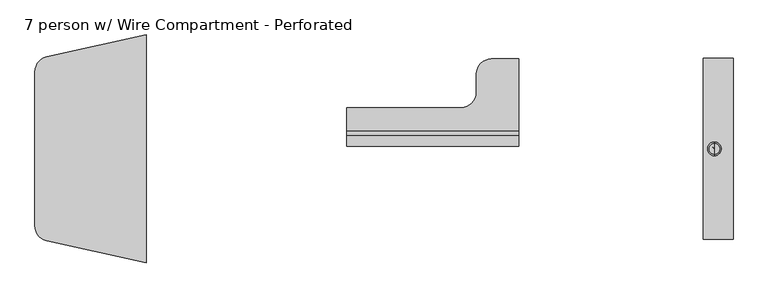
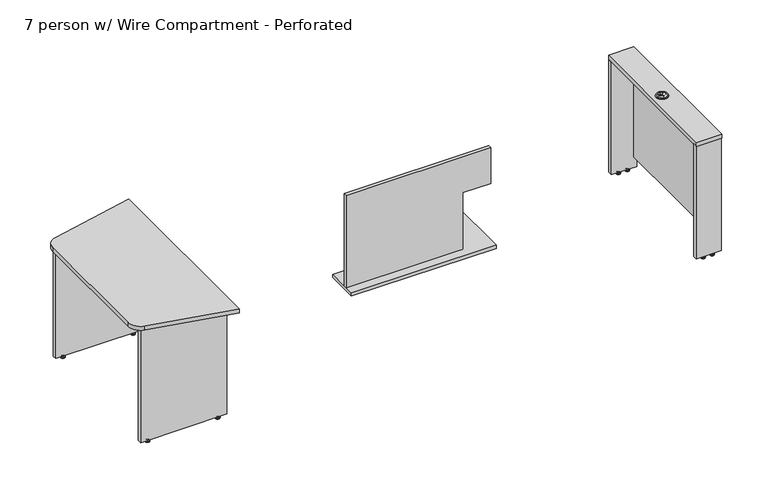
"""IFC4 building model written with IfcOpenShell, lengths in millimetres: furniture geometry, Nova Solutions - Collaboration Table - Boat_6-8 person : 7 person w/ Wire Compartment - Perforated."""

from ifc_helpers import new_model, si_unit, point, frame, frame_2d, origin, place, context, project, spatial, polyline, circle_curve, ellipse_curve, trimmed, segment, composite_curve, outline, extrude, source, transform, mapped, element, save
from ifc_brep_helpers import plane_surface, cylinder_surface, revolved_surface, advanced_brep


def furniture_7_person_w_wire_compartment_perforated_f4f33cce(model_context):
    return source(origin(), model_context, "Body", "SolidModel", [
        advanced_brep(
        [(-2383.9628323, 449.6276506, 11.1125), (-2383.9628323, 442.95, 11.1125), (-2383.9628323, 436.2723494, 11.1125), (-2383.9628323, 449.6276506, 9.525), (-2383.9628323, 436.2723494, 9.525), (-2383.9628323, 454.8355135, 4.7748687), (-2383.9628323, 431.0644865, 4.7748687), (-2383.9628323, 455.6966506, 3.989419), (-2383.9628323, 430.2033494, 3.989419), (-2383.9628323, 455.6966506, 3.175), (-2383.9628323, 430.2033494, 3.175), (-2383.9628323, 454.8459119, 0.0), (-2383.9628323, 431.0540881, 0.0), (-2383.9628323, 442.95, 0.0)],
        [
            (0, 1),
            (1, 2),
            (2, 0, circle_curve(frame((-2383.9628323, 442.95, 11.1125), z_axis=(0.0, 0.0, 1.0), x_axis=(0.0, -1.0, 0.0)), 6.6776506)),
            (0, 2, circle_curve(frame((-2383.9628323, 442.95, 11.1125), z_axis=(0.0, 0.0, 1.0), x_axis=(0.0, -1.0, 0.0)), 6.6776506)),
            (3, 0),
            (2, 4),
            (4, 3, circle_curve(frame((-2383.9628323, 442.95, 9.525), z_axis=(0.0, 0.0, 1.0), x_axis=(0.0, -1.0, 0.0)), 6.6776506)),
            (3, 4, circle_curve(frame((-2383.9628323, 442.95, 9.525), z_axis=(0.0, 0.0, 1.0), x_axis=(0.0, -1.0, 0.0)), 6.6776506)),
            (5, 3, circle_curve(frame((-2383.9628323, 455.8820627, 11.1521822), z_axis=(-1.0, 0.0, 0.0), x_axis=(0.0, -1.0, 0.0)), 6.462615)),
            (4, 6, circle_curve(frame((-2383.9628323, 430.0179373, 11.1521822), z_axis=(-1.0, 0.0, 0.0), x_axis=(0.0, 1.0, 0.0)), 6.462615)),
            (6, 5, circle_curve(frame((-2383.9628323, 442.95, 4.7748687), z_axis=(0.0, 0.0, 1.0), x_axis=(0.0, -1.0, 0.0)), 11.8855135)),
            (5, 6, circle_curve(frame((-2383.9628323, 442.95, 4.7748687), z_axis=(0.0, 0.0, 1.0), x_axis=(0.0, -1.0, 0.0)), 11.8855135)),
            (7, 5, circle_curve(frame((-2383.9628323, 454.6624632, 3.7203591), z_axis=(1.0, 0.0, 0.0), x_axis=(0.0, -1.0, 0.0)), 1.0686145)),
            (6, 8, circle_curve(frame((-2383.9628323, 431.2375368, 3.7203591), z_axis=(1.0, 0.0, 0.0), x_axis=(0.0, 1.0, 0.0)), 1.0686145)),
            (8, 7, circle_curve(frame((-2383.9628323, 442.95, 3.989419), z_axis=(0.0, 0.0, 1.0), x_axis=(0.0, -1.0, 0.0)), 12.7466506)),
            (7, 8, circle_curve(frame((-2383.9628323, 442.95, 3.989419), z_axis=(0.0, 0.0, 1.0), x_axis=(0.0, -1.0, 0.0)), 12.7466506)),
            (9, 7),
            (8, 10),
            (10, 9, circle_curve(frame((-2383.9628323, 442.95, 3.175), z_axis=(0.0, 0.0, 1.0), x_axis=(0.0, -1.0, 0.0)), 12.7466506)),
            (9, 10, circle_curve(frame((-2383.9628323, 442.95, 3.175), z_axis=(0.0, 0.0, 1.0), x_axis=(0.0, -1.0, 0.0)), 12.7466506)),
            (11, 9),
            (10, 12),
            (12, 11, circle_curve(frame((-2383.9628323, 442.95, 0.0), z_axis=(0.0, 0.0, 1.0), x_axis=(0.0, -1.0, 0.0)), 11.8959119)),
            (11, 12, circle_curve(frame((-2383.9628323, 442.95, 0.0), z_axis=(0.0, 0.0, 1.0), x_axis=(0.0, -1.0, 0.0)), 11.8959119)),
            (13, 11),
            (12, 13),
        ],
        [
            plane_surface(frame((-2383.9628323, 442.95, 11.1125), z_axis=(0.0, 0.0, 1.0), x_axis=(0.0, -1.0, 0.0))),
            cylinder_surface(frame((-2383.9628323, 442.95, 43.2095994), z_axis=(0.0, 0.0, -1.0), x_axis=(0.0, -1.0, 0.0)), 6.6776506),
            revolved_surface(trimmed(ellipse_curve(frame((-2383.9628323, 430.0179373, 11.1521822), z_axis=(-1.0, 0.0, 0.0), x_axis=(0.0, 1.0, 0.0)), 6.462615, 6.462615), [point((-2383.9628323, 436.2723494, 9.525))], [point((-2383.9628323, 431.0644865, 4.7748687))], True, "CARTESIAN"), (-2383.9628323, 442.95, 43.2095994), (0.0, 0.0, -1.0)),
            revolved_surface(trimmed(ellipse_curve(frame((-2383.9628323, 431.2375368, 3.7203591), z_axis=(1.0, 0.0, 0.0), x_axis=(0.0, 1.0, 0.0)), 1.0686145, 1.0686145), [point((-2383.9628323, 431.0644865, 4.7748687))], [point((-2383.9628323, 430.2033494, 3.989419))], True, "CARTESIAN"), (-2383.9628323, 442.95, 43.2095994), (0.0, 0.0, -1.0)),
            cylinder_surface(frame((-2383.9628323, 442.95, 43.2095994), z_axis=(0.0, 0.0, -1.0), x_axis=(0.0, -1.0, 0.0)), 12.7466506),
            revolved_surface(polyline([(-2383.9628323, 430.2033494, 3.175), (-2383.9628323, 431.0540881, 0.0)]), (-2383.9628323, 442.95, 43.2095994), (0.0, 0.0, -1.0)),
            plane_surface(frame((-2383.9628323, 442.95, 0.0), z_axis=(0.0, 0.0, -1.0), x_axis=(0.0, -1.0, 0.0))),
        ],
        [
            (0, [[1, 2, 3]]),
            (0, [[-2, -1, 4]]),
            (1, [[5, -3, 6, 7]]),
            (1, [[-6, -4, -5, 8]]),
            (2, [[9, -7, 10, 11]]),
            (2, [[-10, -8, -9, 12]]),
            (3, [[13, -11, 14, 15]]),
            (3, [[-14, -12, -13, 16]]),
            (4, [[17, -15, 18, 19]]),
            (4, [[-18, -16, -17, 20]]),
            (5, [[21, -19, 22, 23]]),
            (5, [[-22, -20, -21, 24]]),
            (6, [[25, -23, 26]]),
            (6, [[-26, -24, -25]]),
        ],
    ),
        advanced_brep(
        [(-1959.6909573, 449.6276506, 11.1125), (-1959.6909573, 442.95, 11.1125), (-1959.6909573, 436.2723494, 11.1125), (-1959.6909573, 449.6276506, 9.525), (-1959.6909573, 436.2723494, 9.525), (-1959.6909573, 454.8355135, 4.7748687), (-1959.6909573, 431.0644865, 4.7748687), (-1959.6909573, 455.6966506, 3.989419), (-1959.6909573, 430.2033494, 3.989419), (-1959.6909573, 455.6966506, 3.175), (-1959.6909573, 430.2033494, 3.175), (-1959.6909573, 454.8459119, 0.0), (-1959.6909573, 431.0540881, 0.0), (-1959.6909573, 442.95, 0.0)],
        [
            (0, 1),
            (1, 2),
            (2, 0, circle_curve(frame((-1959.6909573, 442.95, 11.1125), z_axis=(0.0, 0.0, 1.0), x_axis=(0.0, -1.0, 0.0)), 6.6776506)),
            (0, 2, circle_curve(frame((-1959.6909573, 442.95, 11.1125), z_axis=(0.0, 0.0, 1.0), x_axis=(0.0, -1.0, 0.0)), 6.6776506)),
            (3, 0),
            (2, 4),
            (4, 3, circle_curve(frame((-1959.6909573, 442.95, 9.525), z_axis=(0.0, 0.0, 1.0), x_axis=(0.0, -1.0, 0.0)), 6.6776506)),
            (3, 4, circle_curve(frame((-1959.6909573, 442.95, 9.525), z_axis=(0.0, 0.0, 1.0), x_axis=(0.0, -1.0, 0.0)), 6.6776506)),
            (5, 3, circle_curve(frame((-1959.6909573, 455.8820627, 11.1521822), z_axis=(-1.0, 0.0, 0.0), x_axis=(0.0, -1.0, 0.0)), 6.462615)),
            (4, 6, circle_curve(frame((-1959.6909573, 430.0179373, 11.1521822), z_axis=(-1.0, 0.0, 0.0), x_axis=(0.0, 1.0, 0.0)), 6.462615)),
            (6, 5, circle_curve(frame((-1959.6909573, 442.95, 4.7748687), z_axis=(0.0, 0.0, 1.0), x_axis=(0.0, -1.0, 0.0)), 11.8855135)),
            (5, 6, circle_curve(frame((-1959.6909573, 442.95, 4.7748687), z_axis=(0.0, 0.0, 1.0), x_axis=(0.0, -1.0, 0.0)), 11.8855135)),
            (7, 5, circle_curve(frame((-1959.6909573, 454.6624632, 3.7203591), z_axis=(1.0, 0.0, 0.0), x_axis=(0.0, -1.0, 0.0)), 1.0686145)),
            (6, 8, circle_curve(frame((-1959.6909573, 431.2375368, 3.7203591), z_axis=(1.0, 0.0, 0.0), x_axis=(0.0, 1.0, 0.0)), 1.0686145)),
            (8, 7, circle_curve(frame((-1959.6909573, 442.95, 3.989419), z_axis=(0.0, 0.0, 1.0), x_axis=(0.0, -1.0, 0.0)), 12.7466506)),
            (7, 8, circle_curve(frame((-1959.6909573, 442.95, 3.989419), z_axis=(0.0, 0.0, 1.0), x_axis=(0.0, -1.0, 0.0)), 12.7466506)),
            (9, 7),
            (8, 10),
            (10, 9, circle_curve(frame((-1959.6909573, 442.95, 3.175), z_axis=(0.0, 0.0, 1.0), x_axis=(0.0, -1.0, 0.0)), 12.7466506)),
            (9, 10, circle_curve(frame((-1959.6909573, 442.95, 3.175), z_axis=(0.0, 0.0, 1.0), x_axis=(0.0, -1.0, 0.0)), 12.7466506)),
            (11, 9),
            (10, 12),
            (12, 11, circle_curve(frame((-1959.6909573, 442.95, 0.0), z_axis=(0.0, 0.0, 1.0), x_axis=(0.0, -1.0, 0.0)), 11.8959119)),
            (11, 12, circle_curve(frame((-1959.6909573, 442.95, 0.0), z_axis=(0.0, 0.0, 1.0), x_axis=(0.0, -1.0, 0.0)), 11.8959119)),
            (13, 11),
            (12, 13),
        ],
        [
            plane_surface(frame((-1959.6909573, 442.95, 11.1125), z_axis=(0.0, 0.0, 1.0), x_axis=(0.0, -1.0, 0.0))),
            cylinder_surface(frame((-1959.6909573, 442.95, 43.2095994), z_axis=(0.0, 0.0, -1.0), x_axis=(0.0, -1.0, 0.0)), 6.6776506),
            revolved_surface(trimmed(ellipse_curve(frame((-1959.6909573, 430.0179373, 11.1521822), z_axis=(-1.0, 0.0, 0.0), x_axis=(0.0, 1.0, 0.0)), 6.462615, 6.462615), [point((-1959.6909573, 436.2723494, 9.525))], [point((-1959.6909573, 431.0644865, 4.7748687))], True, "CARTESIAN"), (-1959.6909573, 442.95, 43.2095994), (0.0, 0.0, -1.0)),
            revolved_surface(trimmed(ellipse_curve(frame((-1959.6909573, 431.2375368, 3.7203591), z_axis=(1.0, 0.0, 0.0), x_axis=(0.0, 1.0, 0.0)), 1.0686145, 1.0686145), [point((-1959.6909573, 431.0644865, 4.7748687))], [point((-1959.6909573, 430.2033494, 3.989419))], True, "CARTESIAN"), (-1959.6909573, 442.95, 43.2095994), (0.0, 0.0, -1.0)),
            cylinder_surface(frame((-1959.6909573, 442.95, 43.2095994), z_axis=(0.0, 0.0, -1.0), x_axis=(0.0, -1.0, 0.0)), 12.7466506),
            revolved_surface(polyline([(-1959.6909573, 430.2033494, 3.175), (-1959.6909573, 431.0540881, 0.0)]), (-1959.6909573, 442.95, 43.2095994), (0.0, 0.0, -1.0)),
            plane_surface(frame((-1959.6909573, 442.95, 0.0), z_axis=(0.0, 0.0, -1.0), x_axis=(0.0, -1.0, 0.0))),
        ],
        [
            (0, [[1, 2, 3]]),
            (0, [[-2, -1, 4]]),
            (1, [[5, -3, 6, 7]]),
            (1, [[-6, -4, -5, 8]]),
            (2, [[9, -7, 10, 11]]),
            (2, [[-10, -8, -9, 12]]),
            (3, [[13, -11, 14, 15]]),
            (3, [[-14, -12, -13, 16]]),
            (4, [[17, -15, 18, 19]]),
            (4, [[-18, -16, -17, 20]]),
            (5, [[21, -19, 22, 23]]),
            (5, [[-22, -20, -21, 24]]),
            (6, [[25, -23, 26]]),
            (6, [[-26, -24, -25]]),
        ],
    ),
        extrude(outline(polyline([(-1910.6768948, 455.8), (-1910.6768948, 430.1), (-2432.9768948, 430.1), (-2432.9768948, 455.8), (-1910.6768948, 455.8)])), frame((0.0, 0.0, 15.6), z_axis=(0.0, 0.0, 1.0), x_axis=(1.0, 0.0, 0.0)), (0.0, 0.0, 1.0), 720.7),
        advanced_brep(
        [(-2383.9628323, -449.6276506, 11.1125), (-2383.9628323, -436.2723494, 11.1125), (-2383.9628323, -442.95, 11.1125), (-2383.9628323, -449.6276506, 9.525), (-2383.9628323, -436.2723494, 9.525), (-2383.9628323, -454.8355135, 4.7748687), (-2383.9628323, -431.0644865, 4.7748687), (-2383.9628323, -455.6966506, 3.989419), (-2383.9628323, -430.2033494, 3.989419), (-2383.9628323, -455.6966506, 3.175), (-2383.9628323, -430.2033494, 3.175), (-2383.9628323, -454.8459119, 0.0), (-2383.9628323, -431.0540881, 0.0), (-2383.9628323, -442.95, 0.0)],
        [
            (0, 1, circle_curve(frame((-2383.9628323, -442.95, 11.1125), z_axis=(0.0, 0.0, 1.0), x_axis=(0.0, 1.0, 0.0)), 6.6776506)),
            (1, 2),
            (2, 0),
            (1, 0, circle_curve(frame((-2383.9628323, -442.95, 11.1125), z_axis=(0.0, 0.0, 1.0), x_axis=(0.0, 1.0, 0.0)), 6.6776506)),
            (3, 4, circle_curve(frame((-2383.9628323, -442.95, 9.525), z_axis=(0.0, 0.0, 1.0), x_axis=(0.0, 1.0, 0.0)), 6.6776506)),
            (4, 1),
            (0, 3),
            (4, 3, circle_curve(frame((-2383.9628323, -442.95, 9.525), z_axis=(0.0, 0.0, 1.0), x_axis=(0.0, 1.0, 0.0)), 6.6776506)),
            (5, 6, circle_curve(frame((-2383.9628323, -442.95, 4.7748687), z_axis=(0.0, 0.0, 1.0), x_axis=(0.0, 1.0, 0.0)), 11.8855135)),
            (6, 4, circle_curve(frame((-2383.9628323, -430.0179373, 11.1521822), z_axis=(-1.0, 0.0, 0.0), x_axis=(0.0, -1.0, 0.0)), 6.462615)),
            (3, 5, circle_curve(frame((-2383.9628323, -455.8820627, 11.1521822), z_axis=(-1.0, 0.0, 0.0), x_axis=(0.0, 1.0, 0.0)), 6.462615)),
            (6, 5, circle_curve(frame((-2383.9628323, -442.95, 4.7748687), z_axis=(0.0, 0.0, 1.0), x_axis=(0.0, 1.0, 0.0)), 11.8855135)),
            (7, 8, circle_curve(frame((-2383.9628323, -442.95, 3.989419), z_axis=(0.0, 0.0, 1.0), x_axis=(0.0, 1.0, 0.0)), 12.7466506)),
            (8, 6, circle_curve(frame((-2383.9628323, -431.2375368, 3.7203591), z_axis=(1.0, 0.0, 0.0), x_axis=(0.0, -1.0, 0.0)), 1.0686145)),
            (5, 7, circle_curve(frame((-2383.9628323, -454.6624632, 3.7203591), z_axis=(1.0, 0.0, 0.0), x_axis=(0.0, 1.0, 0.0)), 1.0686145)),
            (8, 7, circle_curve(frame((-2383.9628323, -442.95, 3.989419), z_axis=(0.0, 0.0, 1.0), x_axis=(0.0, 1.0, 0.0)), 12.7466506)),
            (9, 10, circle_curve(frame((-2383.9628323, -442.95, 3.175), z_axis=(0.0, 0.0, 1.0), x_axis=(0.0, 1.0, 0.0)), 12.7466506)),
            (10, 8),
            (7, 9),
            (10, 9, circle_curve(frame((-2383.9628323, -442.95, 3.175), z_axis=(0.0, 0.0, 1.0), x_axis=(0.0, 1.0, 0.0)), 12.7466506)),
            (11, 12, circle_curve(frame((-2383.9628323, -442.95, 0.0), z_axis=(0.0, 0.0, 1.0), x_axis=(0.0, 1.0, 0.0)), 11.8959119)),
            (12, 10),
            (9, 11),
            (12, 11, circle_curve(frame((-2383.9628323, -442.95, 0.0), z_axis=(0.0, 0.0, 1.0), x_axis=(0.0, 1.0, 0.0)), 11.8959119)),
            (13, 12),
            (11, 13),
        ],
        [
            plane_surface(frame((-2383.9628323, -442.95, 11.1125), z_axis=(0.0, 0.0, 1.0), x_axis=(0.0, 1.0, 0.0))),
            cylinder_surface(frame((-2383.9628323, -442.95, 43.2095994), z_axis=(0.0, 0.0, -1.0), x_axis=(0.0, 1.0, 0.0)), 6.6776506),
            revolved_surface(trimmed(ellipse_curve(frame((-2383.9628323, -430.0179373, 11.1521822), z_axis=(1.0, 0.0, 0.0), x_axis=(0.0, -1.0, 0.0)), 6.462615, 6.462615), [point((-2383.9628323, -436.2723494, 9.525))], [point((-2383.9628323, -431.0644865, 4.7748687))], True, "CARTESIAN"), (-2383.9628323, -442.95, 43.2095994), (0.0, 0.0, -1.0)),
            revolved_surface(trimmed(ellipse_curve(frame((-2383.9628323, -431.2375368, 3.7203591), z_axis=(-1.0, 0.0, 0.0), x_axis=(0.0, -1.0, 0.0)), 1.0686145, 1.0686145), [point((-2383.9628323, -431.0644865, 4.7748687))], [point((-2383.9628323, -430.2033494, 3.989419))], True, "CARTESIAN"), (-2383.9628323, -442.95, 43.2095994), (0.0, 0.0, -1.0)),
            cylinder_surface(frame((-2383.9628323, -442.95, 43.2095994), z_axis=(0.0, 0.0, -1.0), x_axis=(0.0, 1.0, 0.0)), 12.7466506),
            revolved_surface(polyline([(-2383.9628323, -430.2033494, 3.175), (-2383.9628323, -431.0540881, 0.0)]), (-2383.9628323, -442.95, 43.2095994), (0.0, 0.0, -1.0)),
            plane_surface(frame((-2383.9628323, -442.95, 0.0), z_axis=(0.0, 0.0, -1.0), x_axis=(0.0, 1.0, 0.0))),
        ],
        [
            (0, [[1, 2, 3]]),
            (0, [[4, -3, -2]]),
            (1, [[5, 6, -1, 7]]),
            (1, [[8, -7, -4, -6]]),
            (2, [[9, 10, -5, 11]]),
            (2, [[12, -11, -8, -10]]),
            (3, [[13, 14, -9, 15]]),
            (3, [[16, -15, -12, -14]]),
            (4, [[17, 18, -13, 19]]),
            (4, [[20, -19, -16, -18]]),
            (5, [[21, 22, -17, 23]]),
            (5, [[24, -23, -20, -22]]),
            (6, [[25, -21, 26]]),
            (6, [[-26, -24, -25]]),
        ],
    ),
        advanced_brep(
        [(-1959.6909573, -449.6276506, 11.1125), (-1959.6909573, -436.2723494, 11.1125), (-1959.6909573, -442.95, 11.1125), (-1959.6909573, -449.6276506, 9.525), (-1959.6909573, -436.2723494, 9.525), (-1959.6909573, -454.8355135, 4.7748687), (-1959.6909573, -431.0644865, 4.7748687), (-1959.6909573, -455.6966506, 3.989419), (-1959.6909573, -430.2033494, 3.989419), (-1959.6909573, -455.6966506, 3.175), (-1959.6909573, -430.2033494, 3.175), (-1959.6909573, -454.8459119, 0.0), (-1959.6909573, -431.0540881, 0.0), (-1959.6909573, -442.95, 0.0)],
        [
            (0, 1, circle_curve(frame((-1959.6909573, -442.95, 11.1125), z_axis=(0.0, 0.0, 1.0), x_axis=(0.0, 1.0, 0.0)), 6.6776506)),
            (1, 2),
            (2, 0),
            (1, 0, circle_curve(frame((-1959.6909573, -442.95, 11.1125), z_axis=(0.0, 0.0, 1.0), x_axis=(0.0, 1.0, 0.0)), 6.6776506)),
            (3, 4, circle_curve(frame((-1959.6909573, -442.95, 9.525), z_axis=(0.0, 0.0, 1.0), x_axis=(0.0, 1.0, 0.0)), 6.6776506)),
            (4, 1),
            (0, 3),
            (4, 3, circle_curve(frame((-1959.6909573, -442.95, 9.525), z_axis=(0.0, 0.0, 1.0), x_axis=(0.0, 1.0, 0.0)), 6.6776506)),
            (5, 6, circle_curve(frame((-1959.6909573, -442.95, 4.7748687), z_axis=(0.0, 0.0, 1.0), x_axis=(0.0, 1.0, 0.0)), 11.8855135)),
            (6, 4, circle_curve(frame((-1959.6909573, -430.0179373, 11.1521822), z_axis=(-1.0, 0.0, 0.0), x_axis=(0.0, -1.0, 0.0)), 6.462615)),
            (3, 5, circle_curve(frame((-1959.6909573, -455.8820627, 11.1521822), z_axis=(-1.0, 0.0, 0.0), x_axis=(0.0, 1.0, 0.0)), 6.462615)),
            (6, 5, circle_curve(frame((-1959.6909573, -442.95, 4.7748687), z_axis=(0.0, 0.0, 1.0), x_axis=(0.0, 1.0, 0.0)), 11.8855135)),
            (7, 8, circle_curve(frame((-1959.6909573, -442.95, 3.989419), z_axis=(0.0, 0.0, 1.0), x_axis=(0.0, 1.0, 0.0)), 12.7466506)),
            (8, 6, circle_curve(frame((-1959.6909573, -431.2375368, 3.7203591), z_axis=(1.0, 0.0, 0.0), x_axis=(0.0, -1.0, 0.0)), 1.0686145)),
            (5, 7, circle_curve(frame((-1959.6909573, -454.6624632, 3.7203591), z_axis=(1.0, 0.0, 0.0), x_axis=(0.0, 1.0, 0.0)), 1.0686145)),
            (8, 7, circle_curve(frame((-1959.6909573, -442.95, 3.989419), z_axis=(0.0, 0.0, 1.0), x_axis=(0.0, 1.0, 0.0)), 12.7466506)),
            (9, 10, circle_curve(frame((-1959.6909573, -442.95, 3.175), z_axis=(0.0, 0.0, 1.0), x_axis=(0.0, 1.0, 0.0)), 12.7466506)),
            (10, 8),
            (7, 9),
            (10, 9, circle_curve(frame((-1959.6909573, -442.95, 3.175), z_axis=(0.0, 0.0, 1.0), x_axis=(0.0, 1.0, 0.0)), 12.7466506)),
            (11, 12, circle_curve(frame((-1959.6909573, -442.95, 0.0), z_axis=(0.0, 0.0, 1.0), x_axis=(0.0, 1.0, 0.0)), 11.8959119)),
            (12, 10),
            (9, 11),
            (12, 11, circle_curve(frame((-1959.6909573, -442.95, 0.0), z_axis=(0.0, 0.0, 1.0), x_axis=(0.0, 1.0, 0.0)), 11.8959119)),
            (13, 12),
            (11, 13),
        ],
        [
            plane_surface(frame((-1959.6909573, -442.95, 11.1125), z_axis=(0.0, 0.0, 1.0), x_axis=(0.0, 1.0, 0.0))),
            cylinder_surface(frame((-1959.6909573, -442.95, 43.2095994), z_axis=(0.0, 0.0, -1.0), x_axis=(0.0, 1.0, 0.0)), 6.6776506),
            revolved_surface(trimmed(ellipse_curve(frame((-1959.6909573, -430.0179373, 11.1521822), z_axis=(1.0, 0.0, 0.0), x_axis=(0.0, -1.0, 0.0)), 6.462615, 6.462615), [point((-1959.6909573, -436.2723494, 9.525))], [point((-1959.6909573, -431.0644865, 4.7748687))], True, "CARTESIAN"), (-1959.6909573, -442.95, 43.2095994), (0.0, 0.0, -1.0)),
            revolved_surface(trimmed(ellipse_curve(frame((-1959.6909573, -431.2375368, 3.7203591), z_axis=(-1.0, 0.0, 0.0), x_axis=(0.0, -1.0, 0.0)), 1.0686145, 1.0686145), [point((-1959.6909573, -431.0644865, 4.7748687))], [point((-1959.6909573, -430.2033494, 3.989419))], True, "CARTESIAN"), (-1959.6909573, -442.95, 43.2095994), (0.0, 0.0, -1.0)),
            cylinder_surface(frame((-1959.6909573, -442.95, 43.2095994), z_axis=(0.0, 0.0, -1.0), x_axis=(0.0, 1.0, 0.0)), 12.7466506),
            revolved_surface(polyline([(-1959.6909573, -430.2033494, 3.175), (-1959.6909573, -431.0540881, 0.0)]), (-1959.6909573, -442.95, 43.2095994), (0.0, 0.0, -1.0)),
            plane_surface(frame((-1959.6909573, -442.95, 0.0), z_axis=(0.0, 0.0, -1.0), x_axis=(0.0, 1.0, 0.0))),
        ],
        [
            (0, [[1, 2, 3]]),
            (0, [[4, -3, -2]]),
            (1, [[5, 6, -1, 7]]),
            (1, [[8, -7, -4, -6]]),
            (2, [[9, 10, -5, 11]]),
            (2, [[12, -11, -8, -10]]),
            (3, [[13, 14, -9, 15]]),
            (3, [[16, -15, -12, -14]]),
            (4, [[17, 18, -13, 19]]),
            (4, [[20, -19, -16, -18]]),
            (5, [[21, 22, -17, 23]]),
            (5, [[24, -23, -20, -22]]),
            (6, [[25, -21, 26]]),
            (6, [[-26, -24, -25]]),
        ],
    ),
        extrude(outline(polyline([(-1910.6768948, -455.8), (-2432.9768948, -455.8), (-2432.9768948, -430.1), (-1910.6768948, -430.1), (-1910.6768948, -455.8)])), frame((0.0, 0.0, 15.6), z_axis=(0.0, 0.0, 1.0), x_axis=(1.0, 0.0, 0.0)), (0.0, 0.0, 1.0), 720.7),
        extrude(outline(composite_curve([segment(polyline([(-1907.7768948, 579.5), (-1907.7768948, -579.5), (-2413.4427451, -467.3965799)]), True, "CONTINUOUS"), segment(trimmed(circle_curve(frame_2d((-2396.7768948, -392.2217874)), 77.0), [point((-2413.4427451, -467.3965799))], [point((-2473.7768948, -392.2217874))], False, "CARTESIAN"), True, "CONTINUOUS"), segment(polyline([(-2473.7768948, -392.2217874), (-2473.7768948, 392.2217874)]), True, "CONTINUOUS"), segment(trimmed(circle_curve(frame_2d((-2396.7768948, 392.2217874)), 77.0), [point((-2473.7768948, 392.2217874))], [point((-2413.4427451, 467.3965799))], False, "CARTESIAN"), True, "CONTINUOUS"), segment(polyline([(-2413.4427451, 467.3965799), (-1907.7768948, 579.5)]), True, "CONTINUOUS")], self_intersect=False)), frame((0.0, 0.0, 736.3), z_axis=(0.0, 0.0, 1.0), x_axis=(1.0, 0.0, 0.0)), (0.0, 0.0, 1.0), 25.7),
        advanced_brep(
        [(981.65, -34.925, 762.0), (981.65, 34.925, 762.0), (981.65, 24.6435157, 762.0), (980.503542, 2.7677944, 762.0), (964.2244029, 17.4255971, 762.0), (978.8822056, 1.146458, 762.0), (957.0064843, 0.0, 762.0), (978.8822056, -1.146458, 762.0), (964.2244029, -17.4255971, 762.0), (980.503542, -2.7677944, 762.0), (981.65, -24.6435157, 762.0), (982.796458, -2.7677944, 762.0), (999.0755971, -17.4255971, 762.0), (984.4177944, -1.146458, 762.0), (1006.2935157, 0.0, 762.0), (984.4177944, 1.146458, 762.0), (999.0755971, 17.4255971, 762.0), (982.796458, 2.7677944, 762.0), (981.65, -34.925, 763.3787817), (981.65, 34.925, 763.3787817), (981.65, -28.7119174, 765.175), (981.65, 28.7119174, 765.175), (981.65, -24.6435157, 765.175), (980.503542, -2.7677944, 765.175), (964.2244029, -17.4255971, 765.175), (978.8822056, -1.146458, 765.175), (957.0064843, 0.0, 765.175), (978.8822056, 1.146458, 765.175), (964.2244029, 17.4255971, 765.175), (980.503542, 2.7677944, 765.175), (981.65, 24.6435157, 765.175), (982.796458, 2.7677944, 765.175), (999.0755971, 17.4255971, 765.175), (984.4177944, 1.146458, 765.175), (1006.2935157, 0.0, 765.175), (984.4177944, -1.146458, 765.175), (999.0755971, -17.4255971, 765.175), (982.796458, -2.7677944, 765.175)],
        [
            (0, 1, circle_curve(frame((981.65, 0.0, 762.0), z_axis=(0.0, 0.0, -1.0), x_axis=(0.0, 1.0, 0.0)), 34.925)),
            (1, 2),
            (2, 3),
            (3, 4),
            (4, 5),
            (5, 6),
            (6, 7),
            (7, 8),
            (8, 9),
            (9, 10),
            (10, 0),
            (1, 0, circle_curve(frame((981.65, 0.0, 762.0), z_axis=(0.0, 0.0, -1.0), x_axis=(0.0, 1.0, 0.0)), 34.925)),
            (10, 11),
            (11, 12),
            (12, 13),
            (13, 14),
            (14, 15),
            (15, 16),
            (16, 17),
            (17, 2),
            (0, 18),
            (18, 19, circle_curve(frame((981.65, 0.0, 763.3787817), z_axis=(0.0, 0.0, -1.0), x_axis=(0.0, 1.0, 0.0)), 34.925)),
            (19, 1),
            (19, 18, circle_curve(frame((981.65, 0.0, 763.3787817), z_axis=(0.0, 0.0, -1.0), x_axis=(0.0, 1.0, 0.0)), 34.925)),
            (18, 20, circle_curve(frame((981.65, -31.558813, 763.3787817), z_axis=(-1.0, 0.0, 0.0), x_axis=(0.0, -1.0, 0.0)), 3.366187)),
            (20, 21, circle_curve(frame((981.65, 0.0, 765.175), z_axis=(0.0, 0.0, -1.0), x_axis=(0.0, 1.0, 0.0)), 28.7119174)),
            (21, 19, circle_curve(frame((981.65, 31.558813, 763.3787817), z_axis=(-1.0, 0.0, 0.0), x_axis=(0.0, 1.0, 0.0)), 3.366187)),
            (21, 20, circle_curve(frame((981.65, 0.0, 765.175), z_axis=(0.0, 0.0, -1.0), x_axis=(0.0, 1.0, 0.0)), 28.7119174)),
            (20, 22),
            (22, 23),
            (23, 24),
            (24, 25),
            (25, 26),
            (26, 27),
            (27, 28),
            (28, 29),
            (29, 30),
            (30, 21),
            (30, 31),
            (31, 32),
            (32, 33),
            (33, 34),
            (34, 35),
            (35, 36),
            (36, 37),
            (37, 22),
            (26, 6),
            (5, 27),
            (25, 7),
            (24, 8),
            (23, 9),
            (22, 10),
            (37, 11),
            (36, 12),
            (35, 13),
            (34, 14),
            (33, 15),
            (32, 16),
            (31, 17),
            (30, 2),
            (29, 3),
            (28, 4),
        ],
        [
            plane_surface(frame((981.65, 0.0, 762.0), z_axis=(0.0, 0.0, -1.0), x_axis=(0.0, 1.0, 0.0))),
            cylinder_surface(frame((981.65, 0.0, 850.9), z_axis=(0.0, 0.0, 1.0), x_axis=(0.0, 1.0, 0.0)), 34.925),
            revolved_surface(trimmed(ellipse_curve(frame((981.65, 31.558813, 763.3787817), z_axis=(1.0, 0.0, 0.0), x_axis=(0.0, 1.0, 0.0)), 3.366187, 3.366187), [point((981.65, 34.925, 763.3787817))], [point((981.65, 28.7119174, 765.175))], True, "CARTESIAN"), (981.65, 0.0, 850.9), (0.0, 0.0, 1.0)),
            plane_surface(frame((981.65, 0.0, 765.175), z_axis=(0.0, 0.0, 1.0), x_axis=(0.0, 1.0, 0.0))),
            plane_surface(frame((981.65, 1.2915119, 787.4), z_axis=(0.05233595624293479, -0.9986295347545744, 0.0), x_axis=(0.0, 0.0, -1.0))),
            plane_surface(frame((957.0064843, 0.0, 787.4), z_axis=(0.052335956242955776, 0.9986295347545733, 0.0), x_axis=(0.0, 0.0, -1.0))),
            plane_surface(frame((980.7367632, 0.9132368, 787.4), z_axis=(0.7431448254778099, -0.6691306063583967, 0.0), x_axis=(0.0, 0.0, -1.0))),
            plane_surface(frame((964.2244029, -17.4255971, 787.4), z_axis=(-0.6691306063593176, 0.7431448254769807, 0.0), x_axis=(0.0, 0.0, -1.0))),
            plane_surface(frame((980.3584881, 0.0, 787.4), z_axis=(0.9986295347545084, 0.05233595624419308, 0.0), x_axis=(0.0, 0.0, -1.0))),
            plane_surface(frame((981.65, -24.6435157, 787.4), z_axis=(-0.9986295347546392, 0.05233595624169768, 0.0), x_axis=(0.0, 0.0, -1.0))),
            plane_surface(frame((980.7367632, -0.9132368, 787.4), z_axis=(0.6691306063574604, 0.743144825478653, 0.0), x_axis=(0.0, 0.0, -1.0))),
            plane_surface(frame((999.0755971, -17.4255971, 787.4), z_axis=(-0.7431448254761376, -0.669130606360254, 0.0), x_axis=(0.0, 0.0, -1.0))),
            plane_surface(frame((981.65, -1.2915119, 787.4), z_axis=(-0.052335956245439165, 0.9986295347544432, 0.0), x_axis=(0.0, 0.0, -1.0))),
            plane_surface(frame((1006.2935157, 0.0, 787.4), z_axis=(-0.05233595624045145, -0.9986295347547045, 0.0), x_axis=(0.0, 0.0, -1.0))),
            plane_surface(frame((982.5632368, -0.9132368, 787.4), z_axis=(-0.7431448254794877, 0.6691306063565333, 0.0), x_axis=(0.0, 0.0, -1.0))),
            plane_surface(frame((999.0755971, 17.4255971, 787.4), z_axis=(0.669130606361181, -0.7431448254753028, 0.0), x_axis=(0.0, 0.0, -1.0))),
            plane_surface(frame((982.9415119, 0.0, 787.4), z_axis=(-0.9986295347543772, -0.05233595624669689, 0.0), x_axis=(0.0, 0.0, -1.0))),
            plane_surface(frame((981.65, 24.6435157, 787.4), z_axis=(0.9986295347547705, -0.05233595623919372, 0.0), x_axis=(0.0, 0.0, -1.0))),
            plane_surface(frame((982.5632368, 0.9132368, 787.4), z_axis=(-0.6691306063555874, -0.7431448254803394, 0.0), x_axis=(0.0, 0.0, -1.0))),
            plane_surface(frame((964.2244029, 17.4255971, 787.4), z_axis=(0.743144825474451, 0.669130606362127, 0.0), x_axis=(0.0, 0.0, -1.0))),
        ],
        [
            (0, [[1, 2, 3, 4, 5, 6, 7, 8, 9, 10, 11]]),
            (0, [[12, -11, 13, 14, 15, 16, 17, 18, 19, 20, -2]]),
            (1, [[-1, 21, 22, 23]]),
            (1, [[-12, -23, 24, -21]]),
            (2, [[-22, 25, 26, 27]]),
            (2, [[-24, -27, 28, -25]]),
            (3, [[-26, 29, 30, 31, 32, 33, 34, 35, 36, 37, 38]]),
            (3, [[-28, -38, 39, 40, 41, 42, 43, 44, 45, 46, -29]]),
            (4, [[47, -6, 48, -34]]),
            (5, [[-47, -33, 49, -7]]),
            (6, [[50, -8, -49, -32]]),
            (7, [[-50, -31, 51, -9]]),
            (8, [[52, -10, -51, -30]]),
            (9, [[-52, -46, 53, -13]]),
            (10, [[54, -14, -53, -45]]),
            (11, [[-54, -44, 55, -15]]),
            (12, [[56, -16, -55, -43]]),
            (13, [[-56, -42, 57, -17]]),
            (14, [[58, -18, -57, -41]]),
            (15, [[-58, -40, 59, -19]]),
            (16, [[60, -20, -59, -39]]),
            (17, [[-60, -37, 61, -3]]),
            (18, [[62, -4, -61, -36]]),
            (19, [[-62, -35, -48, -5]]),
        ],
    ),
        advanced_brep(
        [(1027.6359375, 451.0276506, 11.1125), (1027.6359375, 437.6723494, 11.1125), (1027.6359375, 444.35, 11.1125), (1027.6359375, 451.0276506, 9.525), (1027.6359375, 437.6723494, 9.525), (1027.6359375, 456.2355135, 4.7748687), (1027.6359375, 432.4644865, 4.7748687), (1027.6359375, 457.0966506, 3.989419), (1027.6359375, 431.6033494, 3.989419), (1027.6359375, 457.0966506, 3.175), (1027.6359375, 431.6033494, 3.175), (1027.6359375, 456.2459119, 0.0), (1027.6359375, 432.4540881, 0.0), (1027.6359375, 444.35, 0.0)],
        [
            (0, 1, circle_curve(frame((1027.6359375, 444.35, 11.1125), z_axis=(0.0, 0.0, 1.0), x_axis=(0.0, -1.0, 0.0)), 6.6776506)),
            (1, 2),
            (2, 0),
            (1, 0, circle_curve(frame((1027.6359375, 444.35, 11.1125), z_axis=(0.0, 0.0, 1.0), x_axis=(0.0, -1.0, 0.0)), 6.6776506)),
            (3, 4, circle_curve(frame((1027.6359375, 444.35, 9.525), z_axis=(0.0, 0.0, 1.0), x_axis=(0.0, -1.0, 0.0)), 6.6776506)),
            (4, 1),
            (0, 3),
            (4, 3, circle_curve(frame((1027.6359375, 444.35, 9.525), z_axis=(0.0, 0.0, 1.0), x_axis=(0.0, -1.0, 0.0)), 6.6776506)),
            (5, 6, circle_curve(frame((1027.6359375, 444.35, 4.7748687), z_axis=(0.0, 0.0, 1.0), x_axis=(0.0, -1.0, 0.0)), 11.8855135)),
            (6, 4, circle_curve(frame((1027.6359375, 431.4179373, 11.1521822), z_axis=(1.0, 0.0, 0.0), x_axis=(0.0, 1.0, 0.0)), 6.462615)),
            (3, 5, circle_curve(frame((1027.6359375, 457.2820627, 11.1521822), z_axis=(1.0, 0.0, 0.0), x_axis=(0.0, -1.0, 0.0)), 6.462615)),
            (6, 5, circle_curve(frame((1027.6359375, 444.35, 4.7748687), z_axis=(0.0, 0.0, 1.0), x_axis=(0.0, -1.0, 0.0)), 11.8855135)),
            (7, 8, circle_curve(frame((1027.6359375, 444.35, 3.989419), z_axis=(0.0, 0.0, 1.0), x_axis=(0.0, -1.0, 0.0)), 12.7466506)),
            (8, 6, circle_curve(frame((1027.6359375, 432.6375368, 3.7203591), z_axis=(-1.0, 0.0, 0.0), x_axis=(0.0, 1.0, 0.0)), 1.0686145)),
            (5, 7, circle_curve(frame((1027.6359375, 456.0624632, 3.7203591), z_axis=(-1.0, 0.0, 0.0), x_axis=(0.0, -1.0, 0.0)), 1.0686145)),
            (8, 7, circle_curve(frame((1027.6359375, 444.35, 3.989419), z_axis=(0.0, 0.0, 1.0), x_axis=(0.0, -1.0, 0.0)), 12.7466506)),
            (9, 10, circle_curve(frame((1027.6359375, 444.35, 3.175), z_axis=(0.0, 0.0, 1.0), x_axis=(0.0, -1.0, 0.0)), 12.7466506)),
            (10, 8),
            (7, 9),
            (10, 9, circle_curve(frame((1027.6359375, 444.35, 3.175), z_axis=(0.0, 0.0, 1.0), x_axis=(0.0, -1.0, 0.0)), 12.7466506)),
            (11, 12, circle_curve(frame((1027.6359375, 444.35, 0.0), z_axis=(0.0, 0.0, 1.0), x_axis=(0.0, -1.0, 0.0)), 11.8959119)),
            (12, 10),
            (9, 11),
            (12, 11, circle_curve(frame((1027.6359375, 444.35, 0.0), z_axis=(0.0, 0.0, 1.0), x_axis=(0.0, -1.0, 0.0)), 11.8959119)),
            (13, 12),
            (11, 13),
        ],
        [
            plane_surface(frame((1027.6359375, 444.35, 11.1125), z_axis=(0.0, 0.0, 1.0), x_axis=(0.0, -1.0, 0.0))),
            cylinder_surface(frame((1027.6359375, 444.35, 43.2095994), z_axis=(0.0, 0.0, -1.0), x_axis=(0.0, -1.0, 0.0)), 6.6776506),
            revolved_surface(trimmed(ellipse_curve(frame((1027.6359375, 431.4179373, 11.1521822), z_axis=(-1.0, 0.0, 0.0), x_axis=(0.0, 1.0, 0.0)), 6.462615, 6.462615), [point((1027.6359375, 437.6723494, 9.525))], [point((1027.6359375, 432.4644865, 4.7748687))], True, "CARTESIAN"), (1027.6359375, 444.35, 43.2095994), (0.0, 0.0, -1.0)),
            revolved_surface(trimmed(ellipse_curve(frame((1027.6359375, 432.6375368, 3.7203591), z_axis=(1.0, 0.0, 0.0), x_axis=(0.0, 1.0, 0.0)), 1.0686145, 1.0686145), [point((1027.6359375, 432.4644865, 4.7748687))], [point((1027.6359375, 431.6033494, 3.989419))], True, "CARTESIAN"), (1027.6359375, 444.35, 43.2095994), (0.0, 0.0, -1.0)),
            cylinder_surface(frame((1027.6359375, 444.35, 43.2095994), z_axis=(0.0, 0.0, -1.0), x_axis=(0.0, -1.0, 0.0)), 12.7466506),
            revolved_surface(polyline([(1027.6359375, 431.6033494, 3.175), (1027.6359375, 432.4540881, 0.0)]), (1027.6359375, 444.35, 43.2095994), (0.0, 0.0, -1.0)),
            plane_surface(frame((1027.6359375, 444.35, 0.0), z_axis=(0.0, 0.0, -1.0), x_axis=(0.0, -1.0, 0.0))),
        ],
        [
            (0, [[1, 2, 3]]),
            (0, [[4, -3, -2]]),
            (1, [[5, 6, -1, 7]]),
            (1, [[8, -7, -4, -6]]),
            (2, [[9, 10, -5, 11]]),
            (2, [[12, -11, -8, -10]]),
            (3, [[13, 14, -9, 15]]),
            (3, [[16, -15, -12, -14]]),
            (4, [[17, 18, -13, 19]]),
            (4, [[20, -19, -16, -18]]),
            (5, [[21, 22, -17, 23]]),
            (5, [[24, -23, -20, -22]]),
            (6, [[25, -21, 26]]),
            (6, [[-26, -24, -25]]),
        ],
    ),
        advanced_brep(
        [(973.2640625, 451.0276506, 11.1125), (973.2640625, 437.6723494, 11.1125), (973.2640625, 444.35, 11.1125), (973.2640625, 451.0276506, 9.525), (973.2640625, 437.6723494, 9.525), (973.2640625, 456.2355135, 4.7748687), (973.2640625, 432.4644865, 4.7748687), (973.2640625, 457.0966506, 3.989419), (973.2640625, 431.6033494, 3.989419), (973.2640625, 457.0966506, 3.175), (973.2640625, 431.6033494, 3.175), (973.2640625, 456.2459119, 0.0), (973.2640625, 432.4540881, 0.0), (973.2640625, 444.35, 0.0)],
        [
            (0, 1, circle_curve(frame((973.2640625, 444.35, 11.1125), z_axis=(0.0, 0.0, 1.0), x_axis=(0.0, -1.0, 0.0)), 6.6776506)),
            (1, 2),
            (2, 0),
            (1, 0, circle_curve(frame((973.2640625, 444.35, 11.1125), z_axis=(0.0, 0.0, 1.0), x_axis=(0.0, -1.0, 0.0)), 6.6776506)),
            (3, 4, circle_curve(frame((973.2640625, 444.35, 9.525), z_axis=(0.0, 0.0, 1.0), x_axis=(0.0, -1.0, 0.0)), 6.6776506)),
            (4, 1),
            (0, 3),
            (4, 3, circle_curve(frame((973.2640625, 444.35, 9.525), z_axis=(0.0, 0.0, 1.0), x_axis=(0.0, -1.0, 0.0)), 6.6776506)),
            (5, 6, circle_curve(frame((973.2640625, 444.35, 4.7748687), z_axis=(0.0, 0.0, 1.0), x_axis=(0.0, -1.0, 0.0)), 11.8855135)),
            (6, 4, circle_curve(frame((973.2640625, 431.4179373, 11.1521822), z_axis=(1.0, 0.0, 0.0), x_axis=(0.0, 1.0, 0.0)), 6.462615)),
            (3, 5, circle_curve(frame((973.2640625, 457.2820627, 11.1521822), z_axis=(1.0, 0.0, 0.0), x_axis=(0.0, -1.0, 0.0)), 6.462615)),
            (6, 5, circle_curve(frame((973.2640625, 444.35, 4.7748687), z_axis=(0.0, 0.0, 1.0), x_axis=(0.0, -1.0, 0.0)), 11.8855135)),
            (7, 8, circle_curve(frame((973.2640625, 444.35, 3.989419), z_axis=(0.0, 0.0, 1.0), x_axis=(0.0, -1.0, 0.0)), 12.7466506)),
            (8, 6, circle_curve(frame((973.2640625, 432.6375368, 3.7203591), z_axis=(-1.0, 0.0, 0.0), x_axis=(0.0, 1.0, 0.0)), 1.0686145)),
            (5, 7, circle_curve(frame((973.2640625, 456.0624632, 3.7203591), z_axis=(-1.0, 0.0, 0.0), x_axis=(0.0, -1.0, 0.0)), 1.0686145)),
            (8, 7, circle_curve(frame((973.2640625, 444.35, 3.989419), z_axis=(0.0, 0.0, 1.0), x_axis=(0.0, -1.0, 0.0)), 12.7466506)),
            (9, 10, circle_curve(frame((973.2640625, 444.35, 3.175), z_axis=(0.0, 0.0, 1.0), x_axis=(0.0, -1.0, 0.0)), 12.7466506)),
            (10, 8),
            (7, 9),
            (10, 9, circle_curve(frame((973.2640625, 444.35, 3.175), z_axis=(0.0, 0.0, 1.0), x_axis=(0.0, -1.0, 0.0)), 12.7466506)),
            (11, 12, circle_curve(frame((973.2640625, 444.35, 0.0), z_axis=(0.0, 0.0, 1.0), x_axis=(0.0, -1.0, 0.0)), 11.8959119)),
            (12, 10),
            (9, 11),
            (12, 11, circle_curve(frame((973.2640625, 444.35, 0.0), z_axis=(0.0, 0.0, 1.0), x_axis=(0.0, -1.0, 0.0)), 11.8959119)),
            (13, 12),
            (11, 13),
        ],
        [
            plane_surface(frame((973.2640625, 444.35, 11.1125), z_axis=(0.0, 0.0, 1.0), x_axis=(0.0, -1.0, 0.0))),
            cylinder_surface(frame((973.2640625, 444.35, 43.2095994), z_axis=(0.0, 0.0, -1.0), x_axis=(0.0, -1.0, 0.0)), 6.6776506),
            revolved_surface(trimmed(ellipse_curve(frame((973.2640625, 431.4179373, 11.1521822), z_axis=(-1.0, 0.0, 0.0), x_axis=(0.0, 1.0, 0.0)), 6.462615, 6.462615), [point((973.2640625, 437.6723494, 9.525))], [point((973.2640625, 432.4644865, 4.7748687))], True, "CARTESIAN"), (973.2640625, 444.35, 43.2095994), (0.0, 0.0, -1.0)),
            revolved_surface(trimmed(ellipse_curve(frame((973.2640625, 432.6375368, 3.7203591), z_axis=(1.0, 0.0, 0.0), x_axis=(0.0, 1.0, 0.0)), 1.0686145, 1.0686145), [point((973.2640625, 432.4644865, 4.7748687))], [point((973.2640625, 431.6033494, 3.989419))], True, "CARTESIAN"), (973.2640625, 444.35, 43.2095994), (0.0, 0.0, -1.0)),
            cylinder_surface(frame((973.2640625, 444.35, 43.2095994), z_axis=(0.0, 0.0, -1.0), x_axis=(0.0, -1.0, 0.0)), 12.7466506),
            revolved_surface(polyline([(973.2640625, 431.6033494, 3.175), (973.2640625, 432.4540881, 0.0)]), (973.2640625, 444.35, 43.2095994), (0.0, 0.0, -1.0)),
            plane_surface(frame((973.2640625, 444.35, 0.0), z_axis=(0.0, 0.0, -1.0), x_axis=(0.0, -1.0, 0.0))),
        ],
        [
            (0, [[1, 2, 3]]),
            (0, [[4, -3, -2]]),
            (1, [[5, 6, -1, 7]]),
            (1, [[8, -7, -4, -6]]),
            (2, [[9, 10, -5, 11]]),
            (2, [[12, -11, -8, -10]]),
            (3, [[13, 14, -9, 15]]),
            (3, [[16, -15, -12, -14]]),
            (4, [[17, 18, -13, 19]]),
            (4, [[20, -19, -16, -18]]),
            (5, [[21, 22, -17, 23]]),
            (5, [[24, -23, -20, -22]]),
            (6, [[25, -21, 26]]),
            (6, [[-26, -24, -25]]),
        ],
    ),
        extrude(outline(polyline([(924.25, 457.2), (1076.65, 457.2), (1076.65, 431.5), (924.25, 431.5), (924.25, 457.2)])), frame((0.0, 0.0, 15.6), z_axis=(0.0, 0.0, 1.0), x_axis=(1.0, 0.0, 0.0)), (0.0, 0.0, 1.0), 720.7),
        advanced_brep(
        [(1027.6359375, -451.0276506, 11.1125), (1027.6359375, -444.35, 11.1125), (1027.6359375, -437.6723494, 11.1125), (1027.6359375, -451.0276506, 9.525), (1027.6359375, -437.6723494, 9.525), (1027.6359375, -456.2355135, 4.7748687), (1027.6359375, -432.4644865, 4.7748687), (1027.6359375, -457.0966506, 3.989419), (1027.6359375, -431.6033494, 3.989419), (1027.6359375, -457.0966506, 3.175), (1027.6359375, -431.6033494, 3.175), (1027.6359375, -456.2459119, 0.0), (1027.6359375, -432.4540881, 0.0), (1027.6359375, -444.35, 0.0)],
        [
            (0, 1),
            (1, 2),
            (2, 0, circle_curve(frame((1027.6359375, -444.35, 11.1125), z_axis=(0.0, 0.0, 1.0), x_axis=(0.0, 1.0, 0.0)), 6.6776506)),
            (0, 2, circle_curve(frame((1027.6359375, -444.35, 11.1125), z_axis=(0.0, 0.0, 1.0), x_axis=(0.0, 1.0, 0.0)), 6.6776506)),
            (3, 0),
            (2, 4),
            (4, 3, circle_curve(frame((1027.6359375, -444.35, 9.525), z_axis=(0.0, 0.0, 1.0), x_axis=(0.0, 1.0, 0.0)), 6.6776506)),
            (3, 4, circle_curve(frame((1027.6359375, -444.35, 9.525), z_axis=(0.0, 0.0, 1.0), x_axis=(0.0, 1.0, 0.0)), 6.6776506)),
            (5, 3, circle_curve(frame((1027.6359375, -457.2820627, 11.1521822), z_axis=(1.0, 0.0, 0.0), x_axis=(0.0, 1.0, 0.0)), 6.462615)),
            (4, 6, circle_curve(frame((1027.6359375, -431.4179373, 11.1521822), z_axis=(1.0, 0.0, 0.0), x_axis=(0.0, -1.0, 0.0)), 6.462615)),
            (6, 5, circle_curve(frame((1027.6359375, -444.35, 4.7748687), z_axis=(0.0, 0.0, 1.0), x_axis=(0.0, 1.0, 0.0)), 11.8855135)),
            (5, 6, circle_curve(frame((1027.6359375, -444.35, 4.7748687), z_axis=(0.0, 0.0, 1.0), x_axis=(0.0, 1.0, 0.0)), 11.8855135)),
            (7, 5, circle_curve(frame((1027.6359375, -456.0624632, 3.7203591), z_axis=(-1.0, 0.0, 0.0), x_axis=(0.0, 1.0, 0.0)), 1.0686145)),
            (6, 8, circle_curve(frame((1027.6359375, -432.6375368, 3.7203591), z_axis=(-1.0, 0.0, 0.0), x_axis=(0.0, -1.0, 0.0)), 1.0686145)),
            (8, 7, circle_curve(frame((1027.6359375, -444.35, 3.989419), z_axis=(0.0, 0.0, 1.0), x_axis=(0.0, 1.0, 0.0)), 12.7466506)),
            (7, 8, circle_curve(frame((1027.6359375, -444.35, 3.989419), z_axis=(0.0, 0.0, 1.0), x_axis=(0.0, 1.0, 0.0)), 12.7466506)),
            (9, 7),
            (8, 10),
            (10, 9, circle_curve(frame((1027.6359375, -444.35, 3.175), z_axis=(0.0, 0.0, 1.0), x_axis=(0.0, 1.0, 0.0)), 12.7466506)),
            (9, 10, circle_curve(frame((1027.6359375, -444.35, 3.175), z_axis=(0.0, 0.0, 1.0), x_axis=(0.0, 1.0, 0.0)), 12.7466506)),
            (11, 9),
            (10, 12),
            (12, 11, circle_curve(frame((1027.6359375, -444.35, 0.0), z_axis=(0.0, 0.0, 1.0), x_axis=(0.0, 1.0, 0.0)), 11.8959119)),
            (11, 12, circle_curve(frame((1027.6359375, -444.35, 0.0), z_axis=(0.0, 0.0, 1.0), x_axis=(0.0, 1.0, 0.0)), 11.8959119)),
            (13, 11),
            (12, 13),
        ],
        [
            plane_surface(frame((1027.6359375, -444.35, 11.1125), z_axis=(0.0, 0.0, 1.0), x_axis=(0.0, 1.0, 0.0))),
            cylinder_surface(frame((1027.6359375, -444.35, 43.2095994), z_axis=(0.0, 0.0, -1.0), x_axis=(0.0, 1.0, 0.0)), 6.6776506),
            revolved_surface(trimmed(ellipse_curve(frame((1027.6359375, -431.4179373, 11.1521822), z_axis=(1.0, 0.0, 0.0), x_axis=(0.0, -1.0, 0.0)), 6.462615, 6.462615), [point((1027.6359375, -437.6723494, 9.525))], [point((1027.6359375, -432.4644865, 4.7748687))], True, "CARTESIAN"), (1027.6359375, -444.35, 43.2095994), (0.0, 0.0, -1.0)),
            revolved_surface(trimmed(ellipse_curve(frame((1027.6359375, -432.6375368, 3.7203591), z_axis=(-1.0, 0.0, 0.0), x_axis=(0.0, -1.0, 0.0)), 1.0686145, 1.0686145), [point((1027.6359375, -432.4644865, 4.7748687))], [point((1027.6359375, -431.6033494, 3.989419))], True, "CARTESIAN"), (1027.6359375, -444.35, 43.2095994), (0.0, 0.0, -1.0)),
            cylinder_surface(frame((1027.6359375, -444.35, 43.2095994), z_axis=(0.0, 0.0, -1.0), x_axis=(0.0, 1.0, 0.0)), 12.7466506),
            revolved_surface(polyline([(1027.6359375, -431.6033494, 3.175), (1027.6359375, -432.4540881, 0.0)]), (1027.6359375, -444.35, 43.2095994), (0.0, 0.0, -1.0)),
            plane_surface(frame((1027.6359375, -444.35, 0.0), z_axis=(0.0, 0.0, -1.0), x_axis=(0.0, 1.0, 0.0))),
        ],
        [
            (0, [[1, 2, 3]]),
            (0, [[-2, -1, 4]]),
            (1, [[5, -3, 6, 7]]),
            (1, [[-6, -4, -5, 8]]),
            (2, [[9, -7, 10, 11]]),
            (2, [[-10, -8, -9, 12]]),
            (3, [[13, -11, 14, 15]]),
            (3, [[-14, -12, -13, 16]]),
            (4, [[17, -15, 18, 19]]),
            (4, [[-18, -16, -17, 20]]),
            (5, [[21, -19, 22, 23]]),
            (5, [[-22, -20, -21, 24]]),
            (6, [[25, -23, 26]]),
            (6, [[-26, -24, -25]]),
        ],
    ),
        advanced_brep(
        [(973.2640625, -451.0276506, 11.1125), (973.2640625, -444.35, 11.1125), (973.2640625, -437.6723494, 11.1125), (973.2640625, -451.0276506, 9.525), (973.2640625, -437.6723494, 9.525), (973.2640625, -456.2355135, 4.7748687), (973.2640625, -432.4644865, 4.7748687), (973.2640625, -457.0966506, 3.989419), (973.2640625, -431.6033494, 3.989419), (973.2640625, -457.0966506, 3.175), (973.2640625, -431.6033494, 3.175), (973.2640625, -456.2459119, 0.0), (973.2640625, -432.4540881, 0.0), (973.2640625, -444.35, 0.0)],
        [
            (0, 1),
            (1, 2),
            (2, 0, circle_curve(frame((973.2640625, -444.35, 11.1125), z_axis=(0.0, 0.0, 1.0), x_axis=(0.0, 1.0, 0.0)), 6.6776506)),
            (0, 2, circle_curve(frame((973.2640625, -444.35, 11.1125), z_axis=(0.0, 0.0, 1.0), x_axis=(0.0, 1.0, 0.0)), 6.6776506)),
            (3, 0),
            (2, 4),
            (4, 3, circle_curve(frame((973.2640625, -444.35, 9.525), z_axis=(0.0, 0.0, 1.0), x_axis=(0.0, 1.0, 0.0)), 6.6776506)),
            (3, 4, circle_curve(frame((973.2640625, -444.35, 9.525), z_axis=(0.0, 0.0, 1.0), x_axis=(0.0, 1.0, 0.0)), 6.6776506)),
            (5, 3, circle_curve(frame((973.2640625, -457.2820627, 11.1521822), z_axis=(1.0, 0.0, 0.0), x_axis=(0.0, 1.0, 0.0)), 6.462615)),
            (4, 6, circle_curve(frame((973.2640625, -431.4179373, 11.1521822), z_axis=(1.0, 0.0, 0.0), x_axis=(0.0, -1.0, 0.0)), 6.462615)),
            (6, 5, circle_curve(frame((973.2640625, -444.35, 4.7748687), z_axis=(0.0, 0.0, 1.0), x_axis=(0.0, 1.0, 0.0)), 11.8855135)),
            (5, 6, circle_curve(frame((973.2640625, -444.35, 4.7748687), z_axis=(0.0, 0.0, 1.0), x_axis=(0.0, 1.0, 0.0)), 11.8855135)),
            (7, 5, circle_curve(frame((973.2640625, -456.0624632, 3.7203591), z_axis=(-1.0, 0.0, 0.0), x_axis=(0.0, 1.0, 0.0)), 1.0686145)),
            (6, 8, circle_curve(frame((973.2640625, -432.6375368, 3.7203591), z_axis=(-1.0, 0.0, 0.0), x_axis=(0.0, -1.0, 0.0)), 1.0686145)),
            (8, 7, circle_curve(frame((973.2640625, -444.35, 3.989419), z_axis=(0.0, 0.0, 1.0), x_axis=(0.0, 1.0, 0.0)), 12.7466506)),
            (7, 8, circle_curve(frame((973.2640625, -444.35, 3.989419), z_axis=(0.0, 0.0, 1.0), x_axis=(0.0, 1.0, 0.0)), 12.7466506)),
            (9, 7),
            (8, 10),
            (10, 9, circle_curve(frame((973.2640625, -444.35, 3.175), z_axis=(0.0, 0.0, 1.0), x_axis=(0.0, 1.0, 0.0)), 12.7466506)),
            (9, 10, circle_curve(frame((973.2640625, -444.35, 3.175), z_axis=(0.0, 0.0, 1.0), x_axis=(0.0, 1.0, 0.0)), 12.7466506)),
            (11, 9),
            (10, 12),
            (12, 11, circle_curve(frame((973.2640625, -444.35, 0.0), z_axis=(0.0, 0.0, 1.0), x_axis=(0.0, 1.0, 0.0)), 11.8959119)),
            (11, 12, circle_curve(frame((973.2640625, -444.35, 0.0), z_axis=(0.0, 0.0, 1.0), x_axis=(0.0, 1.0, 0.0)), 11.8959119)),
            (13, 11),
            (12, 13),
        ],
        [
            plane_surface(frame((973.2640625, -444.35, 11.1125), z_axis=(0.0, 0.0, 1.0), x_axis=(0.0, 1.0, 0.0))),
            cylinder_surface(frame((973.2640625, -444.35, 43.2095994), z_axis=(0.0, 0.0, -1.0), x_axis=(0.0, 1.0, 0.0)), 6.6776506),
            revolved_surface(trimmed(ellipse_curve(frame((973.2640625, -431.4179373, 11.1521822), z_axis=(1.0, 0.0, 0.0), x_axis=(0.0, -1.0, 0.0)), 6.462615, 6.462615), [point((973.2640625, -437.6723494, 9.525))], [point((973.2640625, -432.4644865, 4.7748687))], True, "CARTESIAN"), (973.2640625, -444.35, 43.2095994), (0.0, 0.0, -1.0)),
            revolved_surface(trimmed(ellipse_curve(frame((973.2640625, -432.6375368, 3.7203591), z_axis=(-1.0, 0.0, 0.0), x_axis=(0.0, -1.0, 0.0)), 1.0686145, 1.0686145), [point((973.2640625, -432.4644865, 4.7748687))], [point((973.2640625, -431.6033494, 3.989419))], True, "CARTESIAN"), (973.2640625, -444.35, 43.2095994), (0.0, 0.0, -1.0)),
            cylinder_surface(frame((973.2640625, -444.35, 43.2095994), z_axis=(0.0, 0.0, -1.0), x_axis=(0.0, 1.0, 0.0)), 12.7466506),
            revolved_surface(polyline([(973.2640625, -431.6033494, 3.175), (973.2640625, -432.4540881, 0.0)]), (973.2640625, -444.35, 43.2095994), (0.0, 0.0, -1.0)),
            plane_surface(frame((973.2640625, -444.35, 0.0), z_axis=(0.0, 0.0, -1.0), x_axis=(0.0, 1.0, 0.0))),
        ],
        [
            (0, [[1, 2, 3]]),
            (0, [[-2, -1, 4]]),
            (1, [[5, -3, 6, 7]]),
            (1, [[-6, -4, -5, 8]]),
            (2, [[9, -7, 10, 11]]),
            (2, [[-10, -8, -9, 12]]),
            (3, [[13, -11, 14, 15]]),
            (3, [[-14, -12, -13, 16]]),
            (4, [[17, -15, 18, 19]]),
            (4, [[-18, -16, -17, 20]]),
            (5, [[21, -19, 22, 23]]),
            (5, [[-22, -20, -21, 24]]),
            (6, [[25, -23, 26]]),
            (6, [[-26, -24, -25]]),
        ],
    ),
        extrude(outline(polyline([(924.25, -457.2), (924.25, -431.5), (1076.65, -431.5), (1076.65, -457.2), (924.25, -457.2)])), frame((0.0, 0.0, 15.6), z_axis=(0.0, 0.0, 1.0), x_axis=(1.0, 0.0, 0.0)), (0.0, 0.0, 1.0), 720.7),
        extrude(outline(polyline([(1076.07, -431.0), (1057.02, -431.0), (1057.02, 431.0), (1076.07, 431.0), (1076.07, -431.0)])), frame((0.0, 0.0, 85.615), z_axis=(0.0, 0.0, 1.0), x_axis=(1.0, 0.0, 0.0)), (0.0, 0.0, 1.0), 625.285),
        extrude(outline(polyline([(1076.65, 460.1), (1076.65, -460.1), (924.25, -460.1), (924.25, 460.1), (1076.65, 460.1)])), frame((0.0, 0.0, 736.3), z_axis=(0.0, 0.0, 1.0), x_axis=(1.0, 0.0, 0.0)), (0.0, 0.0, 1.0), 25.7),
        extrude(outline(polyline([(145.5, -887.176), (145.5, -183.85), (507.4, -183.85), (507.4, -12.85), (736.3, -12.85), (736.3, -887.176), (145.5, -887.176)])), frame((0.0, 69.4, 0.0), z_axis=(0.0, 1.0, 0.0), x_axis=(0.0, 0.0, 1.0)), (0.0, 0.0, 1.0), 19.2),
        extrude(outline(composite_curve([segment(polyline([(-887.176, 14.1), (-887.176, 210.4), (-305.05, 210.4)]), True, "CONTINUOUS"), segment(trimmed(circle_curve(frame_2d((-305.05, 286.6)), 76.2), [point((-305.05, 210.4))], [point((-228.85, 286.6))], True, "CARTESIAN"), True, "CONTINUOUS"), segment(polyline([(-228.85, 286.6), (-228.85, 381.0625)]), True, "CONTINUOUS"), segment(trimmed(circle_curve(frame_2d((-152.65, 381.0625)), 76.2), [point((-228.85, 381.0625))], [point((-152.65, 457.2625))], False, "CARTESIAN"), True, "CONTINUOUS"), segment(polyline([(-152.65, 457.2625), (-12.85, 457.2625), (-12.85, 14.1), (-887.176, 14.1)]), True, "CONTINUOUS")], self_intersect=False)), frame((0.0, 0.0, 126.3), z_axis=(0.0, 0.0, 1.0), x_axis=(1.0, 0.0, 0.0)), (0.0, 0.0, 1.0), 19.2),
    ])


if __name__ == "__main__":
    model = new_model("IFC4")
    model_context = context("Model", 3, world=origin())
    ifc_project = project(units=[si_unit("LENGTHUNIT", "METRE", prefix="MILLI")], contexts=[model_context])
    site = spatial("IfcSite", under=ifc_project)
    building = spatial("IfcBuilding", under=site)
    placement = place(None, origin())
    furniture_7_person_w_wire_compartment_perforated_shape = furniture_7_person_w_wire_compartment_perforated_f4f33cce(model_context)
    element("IfcFurniture", 1, ObjectType="Nova Solutions - Collaboration Table - Boat_6-8 person : 7 person w/ Wire Compartment - Perforated", at=placement, inside=building, context=model_context, shape_type="MappedRepresentation", body=[
        mapped(furniture_7_person_w_wire_compartment_perforated_shape, transform((0.0, 0.0, 0.0), x_axis=(1.0, 0.0, 0.0), y_axis=(0.0, 1.0, 0.0), z_axis=(0.0, 0.0, 1.0))),
    ])
    save(model, "model.ifc")
